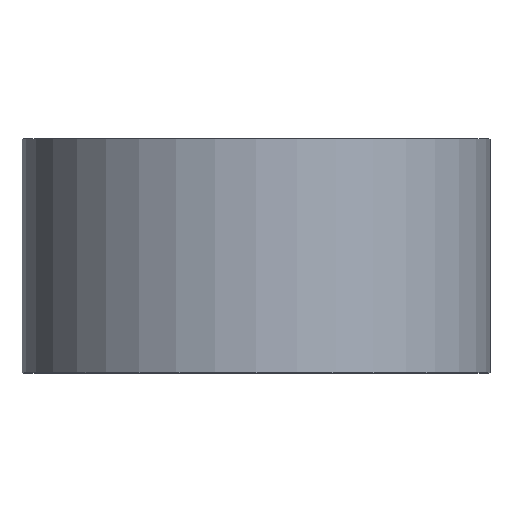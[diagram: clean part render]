
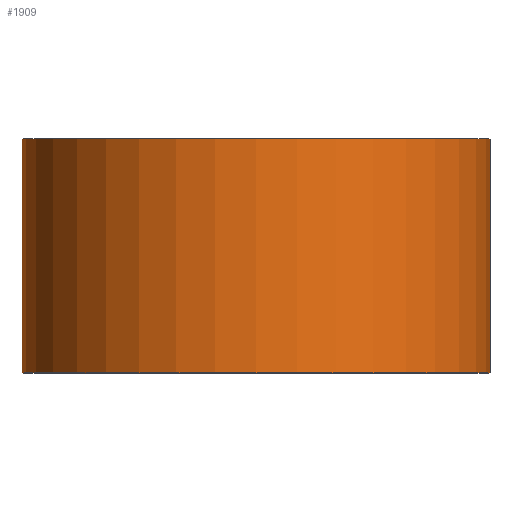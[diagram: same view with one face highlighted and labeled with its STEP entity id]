
A CAD part, top view. The second image highlights one B-rep face of the part: STEP entity #1909.
In plain terms, the highlighted cylindrical face has radius 50.8 mm (diameter 101.6 mm), a full revolution.
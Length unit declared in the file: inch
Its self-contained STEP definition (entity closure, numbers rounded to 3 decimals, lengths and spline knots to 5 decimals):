
#257=FACE_OUTER_BOUND('',#349,.T.);
#349=EDGE_LOOP('',(#1576,#1577,#1578,#1579));
#529=LINE('',#3236,#673);
#673=VECTOR('',#2696,2.);
#790=CIRCLE('',#2139,2.);
#791=CIRCLE('',#2140,2.);
#966=VERTEX_POINT('',#3233);
#967=VERTEX_POINT('',#3235);
#1227=EDGE_CURVE('',#966,#966,#790,.T.);
#1228=EDGE_CURVE('',#966,#967,#529,.T.);
#1229=EDGE_CURVE('',#967,#967,#791,.T.);
#1576=ORIENTED_EDGE('',*,*,#1227,.F.);
#1577=ORIENTED_EDGE('',*,*,#1228,.T.);
#1578=ORIENTED_EDGE('',*,*,#1229,.T.);
#1579=ORIENTED_EDGE('',*,*,#1228,.F.);
#1821=CYLINDRICAL_SURFACE('',#2138,2.);
#1909=ADVANCED_FACE('',(#257),#1821,.T.);
#2138=AXIS2_PLACEMENT_3D('',#3232,#2692,#2693);
#2139=AXIS2_PLACEMENT_3D('',#3234,#2694,#2695);
#2140=AXIS2_PLACEMENT_3D('',#3237,#2697,#2698);
#2692=DIRECTION('center_axis',(0.,1.,0.));
#2693=DIRECTION('ref_axis',(-1.,0.,0.));
#2694=DIRECTION('center_axis',(0.,1.,0.));
#2695=DIRECTION('ref_axis',(-1.,0.,0.));
#2696=DIRECTION('',(0.,-1.,0.));
#2697=DIRECTION('center_axis',(0.,1.,0.));
#2698=DIRECTION('ref_axis',(-1.,0.,0.));
#3232=CARTESIAN_POINT('Origin',(0.,0.,0.));
#3233=CARTESIAN_POINT('',(2.,2.,0.));
#3234=CARTESIAN_POINT('Origin',(0.,2.,0.));
#3235=CARTESIAN_POINT('',(2.,0.,0.));
#3236=CARTESIAN_POINT('',(2.,0.,0.));
#3237=CARTESIAN_POINT('Origin',(0.,0.,0.));
